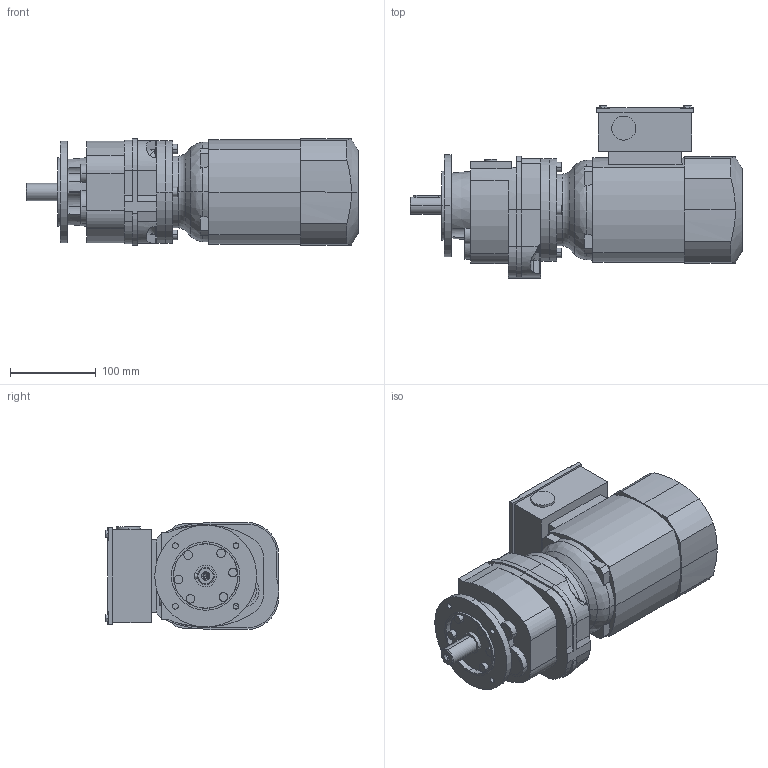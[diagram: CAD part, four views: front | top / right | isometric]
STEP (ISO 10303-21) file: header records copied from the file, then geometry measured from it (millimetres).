
FILE_DESCRIPTION(('STEP AP214'),'1');
FILE_NAME('STEP-File.stp','2018-01-01T00:00:00',(' '),('KEB'),' ','KEB-DRIVE',' ');
FILE_SCHEMA(('AUTOMOTIVE_DESIGN { 1 0 10303 214 1 1 1 1 }'));
Length unit declared in the file: millimetre
Products named in the file (9): g1b; w1_we_20x40; c1_120; ck1; dm71_kkn; kk08; PLUG_M25; ndm71; G13C DM71K4§CAD13
Assembly tree (8 placements, depth 2):
  G13C DM71K4§CAD13
    g1b
    w1_we_20x40
    c1_120
    ck1
    dm71_kkn
    kk08
    PLUG_M25
    ndm71
Bounding box: 387.5 x 202 x 125 mm (x, y, z)
Volume: 4874435.9 mm3; surface area: 339830.4 mm2
Topology: 8 solids, 8 shells, 410 faces, 1106 edges, 812 vertices
Faces by surface type: plane 230, cylinder 111, cone 61, torus 4, extrusion 2, revolution 2
Entity records: 14889 total; most frequent: CARTESIAN_POINT 4922, ORIENTED_EDGE 2202, DIRECTION 1627, EDGE_CURVE 1101, VERTEX_POINT 812, VECTOR 684, LINE 682, EDGE_LOOP 523
